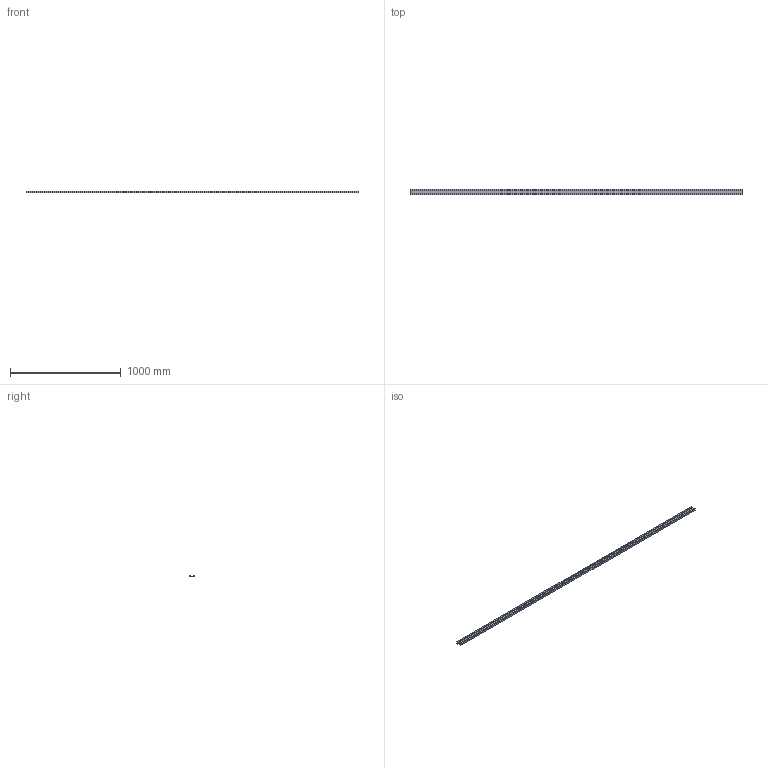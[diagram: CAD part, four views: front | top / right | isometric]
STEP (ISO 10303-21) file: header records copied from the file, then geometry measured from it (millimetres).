
FILE_DESCRIPTION (( 'STEP AP214' ), '1' );
FILE_NAME ('FABER - FD7 2A.STEP', '2017-04-06T07:35:49', ( '' ), ( '' ), 'SwSTEP 2.0', 'SolidWorks 2016', '' );
FILE_SCHEMA (( 'AUTOMOTIVE_DESIGN' ));
Length unit declared in the file: millimetre
Products named in the file (1): FABER - FD7 2A
Bounding box: 3000 x 50 x 15 mm (x, y, z)
Volume: 1568250 mm3; surface area: 502045.5 mm2
Topology: 1 solids, 1 shells, 14 faces, 36 edges, 24 vertices
Faces by surface type: plane 14
Entity records: 454 total; most frequent: CARTESIAN_POINT 75, ORIENTED_EDGE 72, DIRECTION 66, EDGE_CURVE 36, VECTOR 36, LINE 36, VERTEX_POINT 24, AXIS2_PLACEMENT_3D 15
